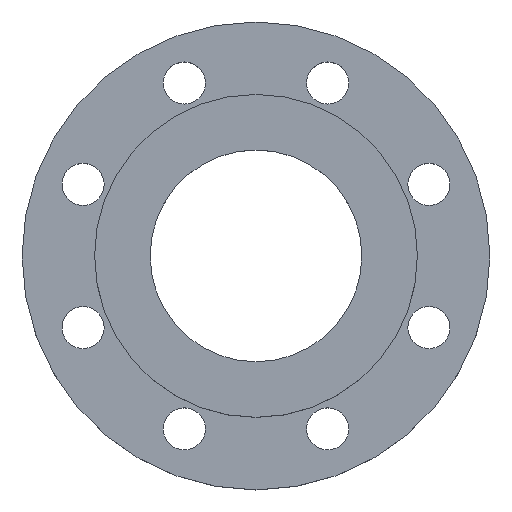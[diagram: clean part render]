
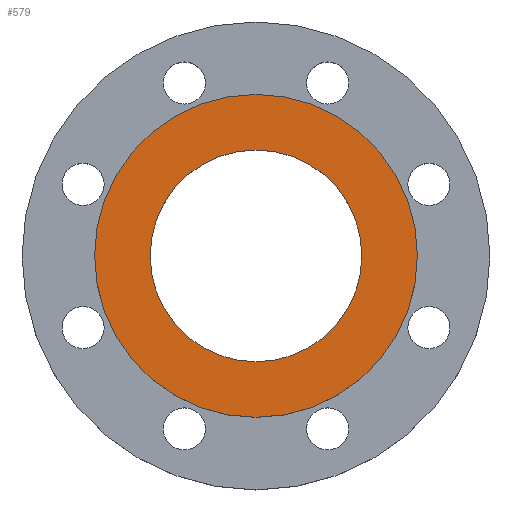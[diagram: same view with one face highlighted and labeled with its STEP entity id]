
A CAD part, top view. The second image highlights one B-rep face of the part: STEP entity #579.
In plain terms, the highlighted planar face has unit normal (0, 0, 1).
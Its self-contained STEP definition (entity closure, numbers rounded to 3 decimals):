
#7 = CIRCLE ( 'NONE', #581, 69. ) ;
#9 = AXIS2_PLACEMENT_3D ( 'NONE', #667, #669, #670 ) ;
#14 = EDGE_CURVE ( 'NONE', #761, #36, #70, .T. ) ;
#28 = CIRCLE ( 'NONE', #615, 69. ) ;
#36 = VERTEX_POINT ( 'NONE', #683 ) ;
#70 = CIRCLE ( 'NONE', #9, 45.25 ) ;
#110 = CARTESIAN_POINT ( 'NONE',  ( -69., 0., 18. ) ) ;
#157 = EDGE_CURVE ( 'NONE', #642, #982, #7, .T. ) ;
#261 = CARTESIAN_POINT ( 'NONE',  ( 45.25, 0., 18. ) ) ;
#295 = EDGE_CURVE ( 'NONE', #36, #761, #607, .T. ) ;
#321 = CARTESIAN_POINT ( 'NONE',  ( 69., 0., 18. ) ) ;
#373 = DIRECTION ( 'NONE',  ( -1., 0., 0. ) ) ;
#374 = DIRECTION ( 'NONE',  ( 0., 0., -1. ) ) ;
#375 = CARTESIAN_POINT ( 'NONE',  ( 0., 0., 18. ) ) ;
#376 = DIRECTION ( 'NONE',  ( -1., 0., 0. ) ) ;
#377 = DIRECTION ( 'NONE',  ( 0., 0., -1. ) ) ;
#378 = CARTESIAN_POINT ( 'NONE',  ( 45.25, 0., 18. ) ) ;
#380 = PLANE ( 'NONE',  #554 ) ;
#381 = FACE_BOUND ( 'NONE', #816, .T. ) ;
#383 = FACE_OUTER_BOUND ( 'NONE', #779, .T. ) ;
#502 = DIRECTION ( 'NONE',  ( 0., 0., -1. ) ) ;
#504 = DIRECTION ( 'NONE',  ( -1., 0., 0. ) ) ;
#510 = CARTESIAN_POINT ( 'NONE',  ( 0., 0., 18. ) ) ;
#554 = AXIS2_PLACEMENT_3D ( 'NONE', #378, #377, #376 ) ;
#579 = ADVANCED_FACE ( 'NONE', ( #383, #381 ), #380, .F. ) ;
#581 = AXIS2_PLACEMENT_3D ( 'NONE', #846, #848, #850 ) ;
#582 = EDGE_CURVE ( 'NONE', #982, #642, #28, .T. ) ;
#607 = CIRCLE ( 'NONE', #740, 45.25 ) ;
#608 = ORIENTED_EDGE ( 'NONE', *, *, #582, .F. ) ;
#610 = ORIENTED_EDGE ( 'NONE', *, *, #157, .F. ) ;
#612 = ORIENTED_EDGE ( 'NONE', *, *, #295, .T. ) ;
#613 = ORIENTED_EDGE ( 'NONE', *, *, #14, .T. ) ;
#615 = AXIS2_PLACEMENT_3D ( 'NONE', #375, #374, #373 ) ;
#642 = VERTEX_POINT ( 'NONE', #321 ) ;
#667 = CARTESIAN_POINT ( 'NONE',  ( 0., 0., 18. ) ) ;
#669 = DIRECTION ( 'NONE',  ( 0., 0., -1. ) ) ;
#670 = DIRECTION ( 'NONE',  ( -1., 0., 0. ) ) ;
#683 = CARTESIAN_POINT ( 'NONE',  ( -45.25, 0., 18. ) ) ;
#740 = AXIS2_PLACEMENT_3D ( 'NONE', #510, #502, #504 ) ;
#761 = VERTEX_POINT ( 'NONE', #261 ) ;
#779 = EDGE_LOOP ( 'NONE', ( #608, #610 ) ) ;
#816 = EDGE_LOOP ( 'NONE', ( #612, #613 ) ) ;
#846 = CARTESIAN_POINT ( 'NONE',  ( 0., 0., 18. ) ) ;
#848 = DIRECTION ( 'NONE',  ( 0., 0., -1. ) ) ;
#850 = DIRECTION ( 'NONE',  ( -1., 0., 0. ) ) ;
#982 = VERTEX_POINT ( 'NONE', #110 ) ;
